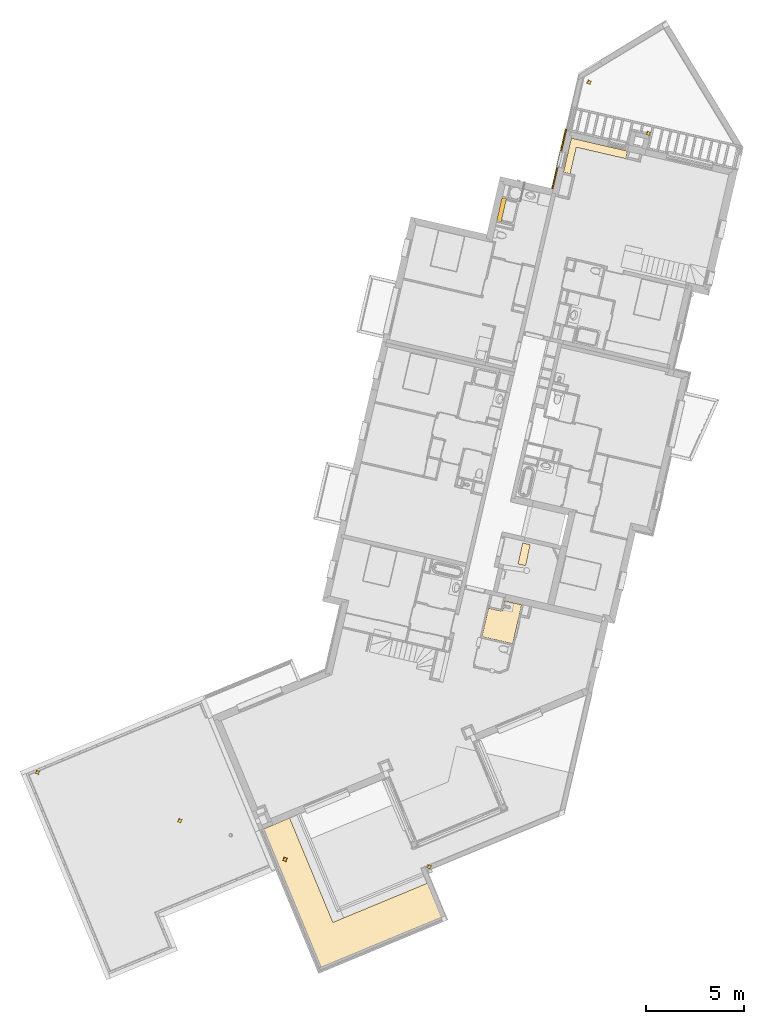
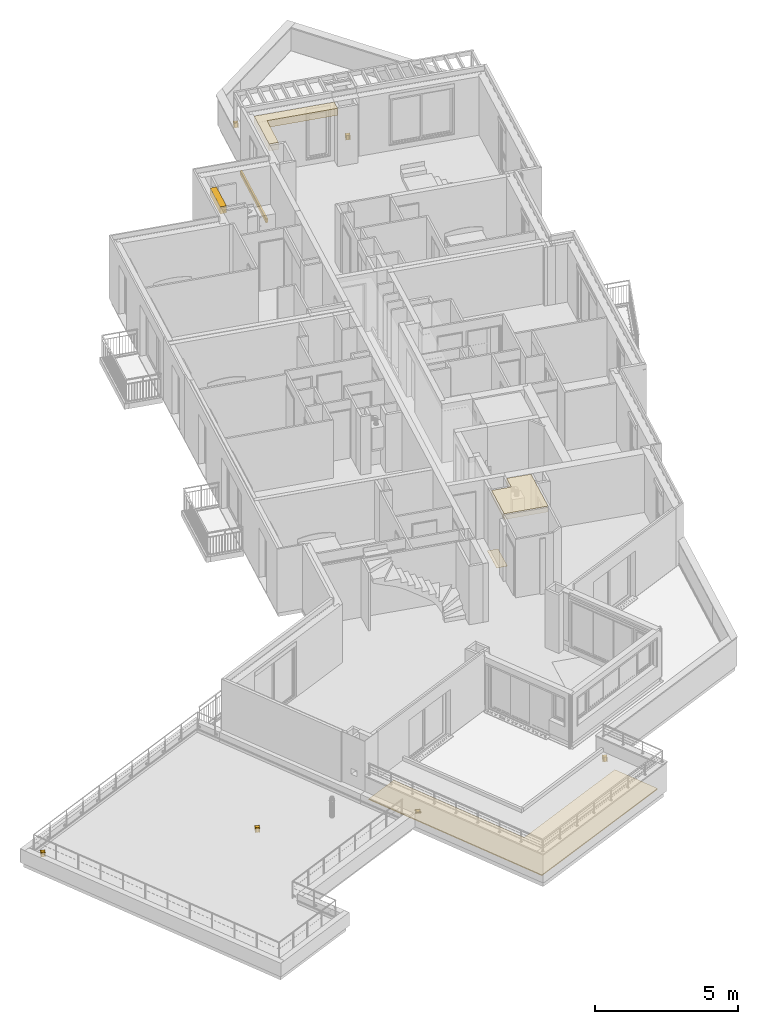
# One storey, part 38 of 62: 12 coverings.
"""IFC2X3 building model written with IfcOpenShell, lengths in metres."""

from ifc_helpers import new_model, entity, si_unit, converted_unit, derived_unit, money_unit, direction, frame, origin_with_axes, place, context, subcontext, project, spatial, faceted_brep, source, transform, mapped, material, type_object, element, save


model = new_model("IFC2X3")

# Units and contexts
model_context = context("Model", 3, precision=1e-05, world=origin_with_axes(), true_north=direction((0.0, 1.0)))
body_context = subcontext(model_context, "Body", "Model", "MODEL_VIEW")
ifc_project = project(units=[si_unit("LENGTHUNIT", "METRE"), si_unit("AREAUNIT", "SQUARE_METRE"), si_unit("VOLUMEUNIT", "CUBIC_METRE"), converted_unit("PLANEANGLEUNIT", "DEGREE", entity("IfcPlaneAngleMeasure", 0.0174532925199), si_unit("PLANEANGLEUNIT", "RADIAN"), dimensions=[0, 0, 0, 0, 0, 0, 0]), si_unit("SOLIDANGLEUNIT", "STERADIAN"), money_unit("EUR"), converted_unit("TIMEUNIT", "Year", entity("IfcTimeMeasure", 31556926.0), si_unit("TIMEUNIT", "SECOND"), dimensions=[0, 0, 1, 0, 0, 0, 0]), si_unit("MASSUNIT", "GRAM", prefix="KILO"), si_unit("THERMODYNAMICTEMPERATUREUNIT", "DEGREE_CELSIUS"), si_unit("LUMINOUSINTENSITYUNIT", "LUMEN"), si_unit("ENERGYUNIT", "JOULE", prefix="MEGA"), derived_unit("THERMALCONDUCTANCEUNIT", [(si_unit("POWERUNIT", "WATT"), 1), (si_unit("LENGTHUNIT", "METRE"), -1), (si_unit("THERMODYNAMICTEMPERATUREUNIT", "KELVIN"), -1)]), derived_unit("SPECIFICHEATCAPACITYUNIT", [(si_unit("ENERGYUNIT", "JOULE"), 1), (si_unit("MASSUNIT", "GRAM", prefix="KILO"), -1), (si_unit("THERMODYNAMICTEMPERATUREUNIT", "KELVIN"), -1)]), derived_unit("MASSDENSITYUNIT", [(si_unit("MASSUNIT", "GRAM", prefix="KILO"), 1), (si_unit("VOLUMEUNIT", "CUBIC_METRE"), -1)])], contexts=[model_context])

# Site, building, storey
site_placement = place(None, origin_with_axes())
site = spatial("IfcSite", under=ifc_project, at=site_placement, Name="Site", CompositionType="ELEMENT")
building_placement = place(site_placement, origin_with_axes())
building = spatial("IfcBuilding", under=site, at=building_placement, Name="Bâtiment", CompositionType="ELEMENT")
storey_placement = place(building_placement, frame((0.0, 0.0, 8.16), z_axis=(0.0, 0.0, 1.0), x_axis=(1.0, 0.0, 0.0)))
storey = spatial("IfcBuildingStorey", under=building, at=storey_placement, Name="R+3", CompositionType="ELEMENT", Elevation=8.16)

# Coverings
ifc_material_1 = material(Name="Volume - Etude")
covering_type_1 = type_object("IfcCoveringType", Name="Evacuation EP terrasse", PredefinedType="FLOORING")
shared_shape_1 = source(origin_with_axes(), body_context, "Body", "Brep", [
    faceted_brep([(0.0522327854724, 0.0878658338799, 0.2), (0.0522327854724, 0.0878658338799, 0.0), (0.058702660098, 0.0767838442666, 0.0), (0.058702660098, 0.0767838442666, 0.2), (0.0477467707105, 0.0998885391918, 0.2), (0.0477467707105, 0.0998885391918, 0.0), (0.045375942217, 0.1125, 0.0), (0.0, 0.1125, 0.0), (0.0, 0.1275, 0.0), (0.045375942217, 0.1275, 0.0), (0.0477467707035, 0.140111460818, 0.0), (0.0522327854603, 0.15213416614, 0.0), (0.0587026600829, 0.163216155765, 0.0), (0.066966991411, 0.173033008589, 0.0), (0.0767838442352, 0.181297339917, 0.0), (0.0878658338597, 0.18776721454, 0.0), (0.0998885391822, 0.192253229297, 0.0), (0.1125, 0.194624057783, 0.0), (0.1125, 0.24, 0.0), (0.1275, 0.24, 0.0), (0.1275, 0.194624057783, 0.0), (0.140111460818, 0.192253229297, 0.0), (0.15213416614, 0.18776721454, 0.0), (0.163216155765, 0.181297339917, 0.0), (0.173033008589, 0.173033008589, 0.0), (0.181297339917, 0.163216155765, 0.0), (0.18776721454, 0.15213416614, 0.0), (0.192253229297, 0.140111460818, 0.0), (0.194624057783, 0.1275, 0.0), (0.24, 0.1275, 0.0), (0.24, 0.1125, 0.0), (0.194624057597, 0.1125, 0.0), (0.192253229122, 0.099888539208, 0.0), (0.187767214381, 0.0878658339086, 0.0), (0.181297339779, 0.0767838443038, 0.0), (0.173033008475, 0.0669669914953, 0.0), (0.163216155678, 0.058702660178, 0.0), (0.152134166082, 0.0522327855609, 0.0), (0.140111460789, 0.0477467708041, 0.0), (0.1275, 0.045375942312, 0.0), (0.1275, 0.0, 0.0), (0.1125, 0.0, 0.0), (0.1125, 0.0453759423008, 0.0), (0.0998885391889, 0.0477467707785, 0.0), (0.0878658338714, 0.0522327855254, 0.0), (0.07678384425, 0.0587026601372, 0.0), (0.066966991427, 0.066966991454, 0.0), (0.066966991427, 0.066966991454, 0.2), (0.07678384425, 0.0587026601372, 0.2), (0.0878658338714, 0.0522327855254, 0.2), (0.0998885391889, 0.0477467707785, 0.2), (0.1125, 0.0453759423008, 0.2), (0.1125, 0.0, 0.2), (0.1275, 0.0, 0.2), (0.1275, 0.045375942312, 0.2), (0.140111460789, 0.0477467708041, 0.2), (0.152134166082, 0.0522327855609, 0.2), (0.163216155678, 0.058702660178, 0.2), (0.173033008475, 0.0669669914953, 0.2), (0.181297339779, 0.0767838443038, 0.2), (0.187767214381, 0.0878658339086, 0.2), (0.192253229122, 0.099888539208, 0.2), (0.194624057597, 0.1125, 0.2), (0.24, 0.1125, 0.2), (0.24, 0.1275, 0.2), (0.194624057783, 0.1275, 0.2), (0.192253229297, 0.140111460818, 0.2), (0.18776721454, 0.15213416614, 0.2), (0.181297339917, 0.163216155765, 0.2), (0.173033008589, 0.173033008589, 0.2), (0.163216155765, 0.181297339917, 0.2), (0.15213416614, 0.18776721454, 0.2), (0.140111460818, 0.192253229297, 0.2), (0.1275, 0.194624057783, 0.2), (0.1275, 0.24, 0.2), (0.1125, 0.24, 0.2), (0.1125, 0.194624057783, 0.2), (0.0998885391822, 0.192253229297, 0.2), (0.0878658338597, 0.18776721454, 0.2), (0.0767838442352, 0.181297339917, 0.2), (0.066966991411, 0.173033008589, 0.2), (0.0587026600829, 0.163216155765, 0.2), (0.0522327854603, 0.15213416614, 0.2), (0.0477467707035, 0.140111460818, 0.2), (0.045375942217, 0.1275, 0.2), (0.0, 0.1275, 0.2), (0.0, 0.1125, 0.2), (0.045375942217, 0.1125, 0.2)], [[[0, 1, 2, 3]], [[4, 5, 1, 0]], [[1, 5, 6, 7, 8, 9, 10, 11, 12, 13, 14, 15, 16, 17, 18, 19, 20, 21, 22, 23, 24, 25, 26, 27, 28, 29, 30, 31, 32, 33, 34, 35, 36, 37, 38, 39, 40, 41, 42, 43, 44, 45, 46, 2]], [[46, 47, 3, 2]], [[4, 0, 3, 47, 48, 49, 50, 51, 52, 53, 54, 55, 56, 57, 58, 59, 60, 61, 62, 63, 64, 65, 66, 67, 68, 69, 70, 71, 72, 73, 74, 75, 76, 77, 78, 79, 80, 81, 82, 83, 84, 85, 86, 87]], [[5, 4, 87, 6]], [[87, 86, 7, 6]], [[86, 85, 8, 7]], [[9, 8, 85, 84]], [[9, 84, 83, 10]], [[82, 11, 10, 83]], [[11, 82, 81, 12]], [[12, 81, 80, 13]], [[13, 80, 79, 14]], [[14, 79, 78, 15]], [[15, 78, 77, 16]], [[16, 77, 76, 17]], [[76, 75, 18, 17]], [[75, 74, 19, 18]], [[73, 20, 19, 74]], [[72, 21, 20, 73]], [[21, 72, 71, 22]], [[22, 71, 70, 23]], [[23, 70, 69, 24]], [[24, 69, 68, 25]], [[67, 26, 25, 68]], [[66, 27, 26, 67]], [[66, 65, 28, 27]], [[29, 28, 65, 64]], [[64, 63, 30, 29]], [[62, 31, 30, 63]], [[61, 32, 31, 62]], [[60, 33, 32, 61]], [[59, 34, 33, 60]], [[58, 35, 34, 59]], [[57, 36, 35, 58]], [[56, 37, 36, 57]], [[55, 38, 37, 56]], [[39, 38, 55, 54]], [[53, 40, 39, 54]], [[52, 41, 40, 53]], [[51, 42, 41, 52]], [[42, 51, 50, 43]], [[49, 44, 43, 50]], [[44, 49, 48, 45]], [[47, 46, 45, 48]]]),
])
for number, where, z_axis, x_axis, name in (
    (1, (-6.50585709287, 17.3102068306, 0.0), (0.0, 0.0, 1.0), (0.383112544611, -0.923701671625, 0.0), "MOB-004"),
    (2, (-14.6777490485, -22.7480867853, 0.0), (0.0, 0.0, 1.0), (0.383112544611, -0.923701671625, 0.0), "MOB-004"),
    (3, (-34.6627743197, -17.925969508, 0.0), (0.0, 0.0, 1.0), (0.383112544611, -0.923701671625, 0.0), "MOB-004"),
    (4, (-27.3985610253, -20.3901832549, 0.0), (0.0, 0.0, 1.0), (0.383112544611, -0.923701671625, 0.0), "MOB-004"),
    (5, (-3.47774959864, 14.6993692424, 0.0), (0.0, 0.0, 1.0), (0.383112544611, -0.923701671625, 0.0), "MOB-004"),
    (6, (-22.0293136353, -22.3667140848, 0.0), (0.0, 0.0, 1.0), (0.383112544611, -0.923701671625, 0.0), "MOB-004"),
):
    element("IfcCovering", number, at=place(storey_placement, frame(where, z_axis=z_axis, x_axis=x_axis)), inside=storey, type_object=covering_type_1, material=ifc_material_1, Name=name, PredefinedType="FLOORING", context=body_context, shape_type="MappedRepresentation", body=[
        mapped(shared_shape_1, transform((0.0, 0.0, 0.0))),
    ])
ifc_material_2 = material(Name="Plastique - PVC")
covering_type_2 = type_object("IfcCoveringType", Name="Bande Podotactile", PredefinedType="FLOORING")
shared_shape_2 = source(origin_with_axes(), body_context, "Body", "Brep", [
    faceted_brep([(0.0, 0.4, 0.0), (0.0, 0.0, 0.0), (0.0, 0.0, 0.005), (0.0, 0.4, 0.005), (1.1, 0.4, 0.0), (1.1, 0.0, 0.0), (1.1, 0.0, 0.005), (1.1, 0.4, 0.005)], [[[0, 1, 2, 3]], [[0, 4, 5, 1]], [[1, 5, 6, 2]], [[3, 2, 6, 7]], [[4, 0, 3, 7]], [[5, 4, 7, 6]]]),
])
covering_1_placement = place(storey_placement, frame((-9.58703592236, -7.43913660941, -2.72), z_axis=(0.0, 0.0, 1.0), x_axis=(0.214546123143, 0.976713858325, 0.0)))
element("IfcCovering", 7, at=covering_1_placement, inside=storey, type_object=covering_type_2, material=ifc_material_2, Name="Bande podotactile", PredefinedType="FLOORING", context=body_context, shape_type="MappedRepresentation", body=[
    mapped(shared_shape_2, transform((0.0, 0.0, 0.0))),
])
ifc_material_3 = material(Name="Panneau drainage")
covering_type_3 = type_object("IfcCoveringType", Name="Panneau drainage 40", PredefinedType="INSULATION")
covering_2_placement = place(storey_placement, frame((-22.9729320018, -20.8789270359, 0.150000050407), z_axis=(0.0, 0.0, 1.0), x_axis=(1.0, 0.0, 0.0)))
element("IfcCovering", 8, at=covering_2_placement, inside=storey, type_object=covering_type_3, material=ifc_material_3, Name="Dalle_004", PredefinedType="INSULATION", context=body_context, shape_type="Brep", body=[
    faceted_brep([(0.0, 0.0, 0.0), (0.0, 0.0, -0.04), (2.93443018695, -7.07504391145, -0.04), (2.93443018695, -7.07504391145, 0.0), (1.33634005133, 0.556914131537, 0.0), (1.33634005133, 0.556914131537, -0.04), (3.54618656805, -4.77112575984, -0.04), (8.37202397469, -2.76957168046, -0.04), (9.09754777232, -4.5188423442, -0.04), (9.09754777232, -4.5188423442, 0.0), (8.37202397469, -2.76957168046, 0.0), (3.54618656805, -4.77112575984, 0.0)], [[[0, 1, 2, 3]], [[4, 5, 1, 0]], [[2, 1, 5, 6, 7, 8]], [[3, 2, 8, 9]], [[4, 0, 3, 9, 10, 11]], [[11, 6, 5, 4]], [[10, 7, 6, 11]], [[9, 8, 7, 10]]]),
])
ifc_material_4 = material(Name="Finition int - Plaque de plâtre")
covering_type_4 = type_object("IfcCoveringType", Name="Finition int - Plaque de plâtre 300", PredefinedType="CEILING")
covering_3_placement = place(storey_placement, frame((-10.7922800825, 11.3468418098, 2.5), z_axis=(0.0, 0.0, 1.0), x_axis=(1.0, 0.0, 0.0)))
element("IfcCovering", 9, at=covering_3_placement, inside=storey, type_object=covering_type_4, material=ifc_material_4, Name="Dalle_003", PredefinedType="CEILING", context=body_context, shape_type="Brep", body=[
    faceted_brep([(-0.272100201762, -1.17900868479, 0.0), (0.0, 0.0, 0.0), (0.0, 0.0, -0.3), (-0.272100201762, -1.17900868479, -0.3), (-0.0431191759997, -1.23185459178, 0.0), (0.22898102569, -0.0528459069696, 0.0), (0.22898102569, -0.0528459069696, -0.3), (-0.0431191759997, -1.23185459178, -0.3)], [[[0, 1, 2, 3]], [[4, 5, 1, 0]], [[1, 5, 6, 2]], [[7, 3, 2, 6]], [[4, 0, 3, 7]], [[5, 4, 7, 6]]]),
])
covering_4_placement = place(storey_placement, frame((-7.31272662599, 12.5702815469, 2.5), z_axis=(0.0, 0.0, 1.0), x_axis=(1.0, 0.0, 0.0)))
element("IfcCovering", 10, at=covering_4_placement, inside=storey, type_object=covering_type_4, material=ifc_material_4, Name="Dalle_003", PredefinedType="CEILING", context=body_context, shape_type="Brep", body=[
    faceted_brep([(0.311903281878, 1.35147521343, 0.0), (0.0, 0.0, 0.0), (0.0, 0.0, -0.3), (0.311903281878, 1.35147521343, -0.3), (0.0603684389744, 1.81798804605, 0.0), (-0.341035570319, 0.0787066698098, 0.0), (2.83502648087, 0.769170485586, 0.0), (2.9245272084, 1.15697664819, 0.0), (-0.341035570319, 0.0787066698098, -0.3), (2.83502648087, 0.769170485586, -0.3), (0.0603684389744, 1.81798804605, -0.3), (2.9245272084, 1.15697664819, -0.3)], [[[0, 1, 2, 3]], [[4, 5, 1, 0, 6, 7]], [[1, 5, 8, 2]], [[9, 3, 2, 8, 10, 11]], [[6, 0, 3, 9]], [[5, 4, 10, 8]], [[7, 6, 9, 11]], [[4, 7, 11, 10]]]),
])
ifc_material_5 = material(Name="Finition sol - Carrelage")
covering_type_5 = type_object("IfcCoveringType", Name="Bandeau de façade composite 80 x 165", PredefinedType="USERDEFINED")
covering_5_placement = place(storey_placement, frame((-8.26439906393, 11.8040929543, -0.165), z_axis=(0.0, 0.0, 1.0), x_axis=(0.224876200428, 0.974387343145, 0.0)))
element("IfcCovering", 11, at=covering_5_placement, inside=storey, type_object=covering_type_5, material=ifc_material_5, Name="Bandeaux de façade préfa composite", ObjectType="MOLDING", PredefinedType="USERDEFINED", context=body_context, shape_type="Brep", body=[
    faceted_brep([(0.0150000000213, -0.0177527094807, 0.00621912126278), (0.0150000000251, -0.0258592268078, 0.00621912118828), (0.0150000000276, -0.03105905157, 0.0), (0.0150000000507, -0.08, 0.0), (0.0150000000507, -0.08, 0.165), (0.0150000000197, -0.0142855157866, 0.16), (0.0150000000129, 0.0, 0.144794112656), (0.0150000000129, 0.0, 0.0), (0.0150000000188, -0.012552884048, 0.0), (3.13177189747, -0.0258592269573, 0.00621912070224), (3.13177189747, -0.0177527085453, 0.00621912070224), (3.13177189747, -0.0310590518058, 0.0), (3.13177189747, -0.08, 0.0), (3.13177189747, -0.08, 0.165), (3.13177189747, -0.0142855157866, 0.16), (3.13177189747, 0.0, 0.144794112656), (3.13177189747, 0.0, 0.0), (3.13177189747, -0.0125528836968, 0.0)], [[[0, 1, 2, 3, 4, 5, 6, 7, 8]], [[9, 1, 0, 10]], [[11, 2, 1, 9]], [[12, 3, 2, 11]], [[4, 3, 12, 13]], [[14, 5, 4, 13]], [[15, 6, 5, 14]], [[16, 7, 6, 15]], [[17, 8, 7, 16]], [[10, 0, 8, 17]], [[17, 16, 15, 14, 13, 12, 11, 9, 10]]]),
])
covering_type_6 = type_object("IfcCoveringType", Name="Finition int - Plaque de plâtre 250", PredefinedType="CEILING")
covering_6_placement = place(storey_placement, frame((-10.7830923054, -9.76704348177, 2.5), z_axis=(0.0, 0.0, 1.0), x_axis=(1.0, 0.0, 0.0)))
element("IfcCovering", 12, at=covering_6_placement, inside=storey, type_object=covering_type_6, material=ifc_material_4, Name="Dalle_003", PredefinedType="CEILING", context=body_context, shape_type="Brep", body=[
    faceted_brep([(0.0, 0.0, 0.0), (0.0, 0.0, -0.25), (-0.698296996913, 0.161158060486, -0.25), (-0.698296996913, 0.161158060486, 0.0), (0.124581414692, 0.53981058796, 0.0), (0.124581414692, 0.53981058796, -0.25), (0.992649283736, 0.324077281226, -0.25), (0.535259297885, -1.65779102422, -0.25), (-1.0344787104, -1.2955154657, -0.25), (-1.0344787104, -1.2955154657, 0.0), (0.535259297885, -1.65779102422, 0.0), (0.992649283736, 0.324077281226, 0.0)], [[[0, 1, 2, 3]], [[4, 5, 1, 0]], [[2, 1, 5, 6, 7, 8]], [[3, 2, 8, 9]], [[4, 0, 3, 9, 10, 11]], [[11, 6, 5, 4]], [[10, 7, 6, 11]], [[9, 8, 7, 10]]]),
])

save(model, "model.ifc")
